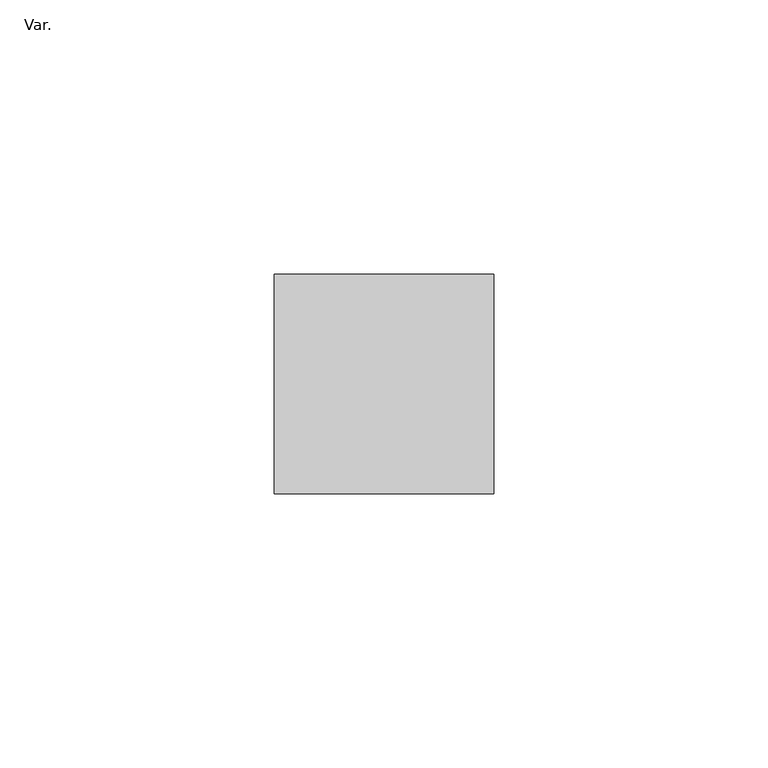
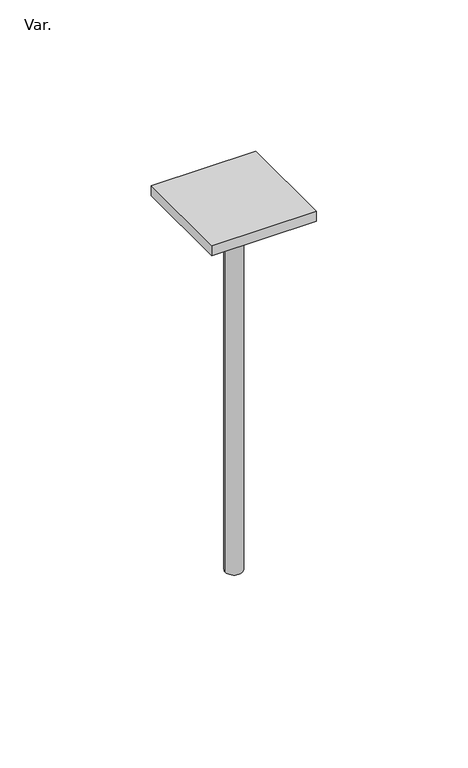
"""IFC4 building model written with IfcOpenShell, lengths in millimetres: pipe fitting geometry, AmancoWavin_ConexõesdeTubos_QSZNãoUsarBarracomBase : Var.."""

from ifc_helpers import new_model, si_unit, point, frame, origin, origin_with_axes, origin_2d, place, context, project, spatial, polyline, circle_curve, trimmed, segment, composite_curve, outline, extrude, source, transform, mapped, element, save


def var_02902a97(model_context):
    return source(origin(), model_context, "Body", "SweptSolid", [
        extrude(outline(polyline([(20.0, 20.0), (20.0, -20.0), (-20.0, -20.0), (-20.0, 20.0), (20.0, 20.0)])), frame((0.0, 0.0, 145.7047466), z_axis=(0.0, 0.0, 1.0), x_axis=(1.0, 0.0, 0.0)), (0.0, 0.0, 1.0), 4.0),
        extrude(outline(composite_curve([segment(trimmed(circle_curve(origin_2d(), 3.254375), [point((-3.254375, 0.0))], [point((3.254375, 0.0))], False, "CARTESIAN"), True, "CONTINUOUS"), segment(trimmed(circle_curve(origin_2d(), 3.254375), [point((3.254375, 0.0))], [point((-3.254375, 0.0))], False, "CARTESIAN"), True, "CONTINUOUS")], self_intersect=False)), origin_with_axes(), (0.0, 0.0, 1.0), 145.7047466),
    ])


if __name__ == "__main__":
    model = new_model("IFC4")
    model_context = context("Model", 3, world=origin())
    ifc_project = project(units=[si_unit("LENGTHUNIT", "METRE", prefix="MILLI")], contexts=[model_context])
    site = spatial("IfcSite", under=ifc_project)
    building = spatial("IfcBuilding", under=site)
    placement = place(None, origin())
    var_shape = var_02902a97(model_context)
    element("IfcPipeFitting", 1, ObjectType="AmancoWavin_ConexõesdeTubos_QSZNãoUsarBarracomBase : Var.", at=placement, inside=building, context=model_context, shape_type="MappedRepresentation", body=[
        mapped(var_shape, transform((0.0, 0.0, 0.0), x_axis=(1.0, 0.0, 0.0), y_axis=(0.0, 1.0, 0.0), z_axis=(0.0, 0.0, 1.0))),
    ])
    save(model, "model.ifc")
